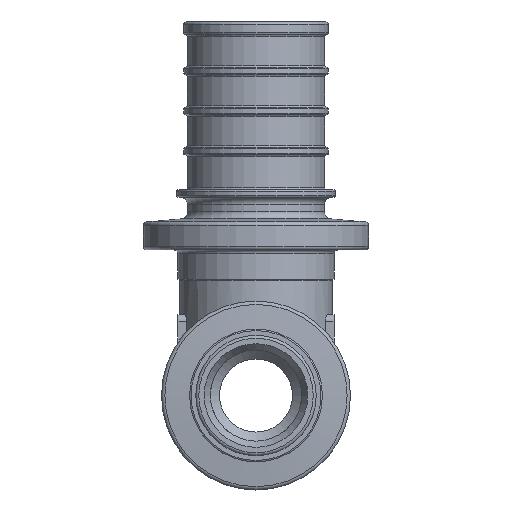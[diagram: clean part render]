
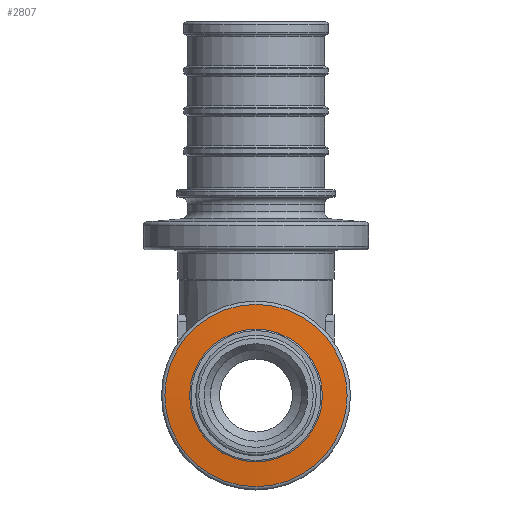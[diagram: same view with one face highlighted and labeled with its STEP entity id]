
A CAD part, front view. The second image highlights one B-rep face of the part: STEP entity #2807.
In plain terms, the highlighted conical face has half-angle 85 degrees and reference radius 10.628 mm.
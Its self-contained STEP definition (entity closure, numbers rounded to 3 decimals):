
#2807=ADVANCED_FACE('',(#6491,#6493),#6495,.T.);
#6491=FACE_OUTER_BOUND('',#6492,.T.);
#6492=EDGE_LOOP('',(#9554));
#6493=FACE_OUTER_BOUND('',#6494,.T.);
#6494=EDGE_LOOP('',(#9555));
#6495=CONICAL_SURFACE('',#6496,10.628,1.484);
#6496=AXIS2_PLACEMENT_3D('',#6497,#6498,#6499);
#6497=CARTESIAN_POINT('',(0.,-25.703,0.));
#6498=DIRECTION('',(0.,1.,0.));
#6499=DIRECTION('',(-1.,0.,0.));
#9554=ORIENTED_EDGE('',*,*,#10615,.T.);
#9555=ORIENTED_EDGE('',*,*,#10618,.T.);
#10615=EDGE_CURVE('',#12115,#12115,#12116,.T.);
#10618=EDGE_CURVE('',#12121,#12121,#12122,.F.);
#12115=VERTEX_POINT('',#16461);
#12116=CIRCLE('',#16462,12.494);
#12121=VERTEX_POINT('',#16476);
#12122=CIRCLE('',#16477,8.763);
#16461=CARTESIAN_POINT('',(12.494,-25.54,0.));
#16462=AXIS2_PLACEMENT_3D('',#16463,#16464,#16465);
#16463=CARTESIAN_POINT('',(0.,-25.54,0.));
#16464=DIRECTION('',(0.,-1.,0.));
#16465=DIRECTION('',(1.,0.,0.));
#16476=CARTESIAN_POINT('',(8.763,-25.866,0.));
#16477=AXIS2_PLACEMENT_3D('',#16478,#16479,#16480);
#16478=CARTESIAN_POINT('',(0.,-25.866,0.));
#16479=DIRECTION('',(0.,-1.,0.));
#16480=DIRECTION('',(1.,0.,0.));
